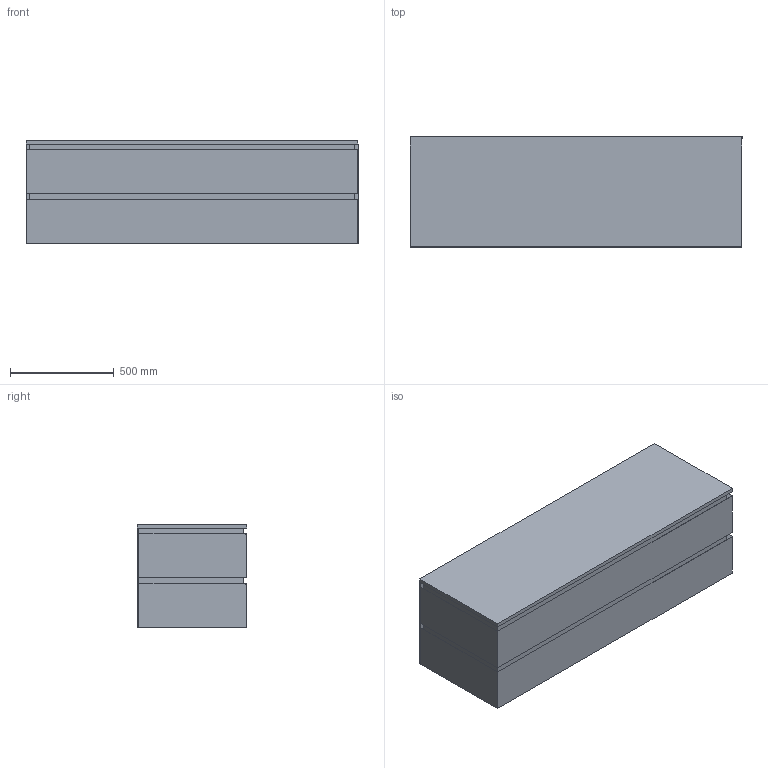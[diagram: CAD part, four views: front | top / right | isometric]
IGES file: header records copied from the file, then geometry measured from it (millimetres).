
Global section: file name: \\Archi-NAS\Comune\X GIOVANNI\MOBILI\ELEGNACE\ELEGANCE_05.igs; native system: Rhinoceros ( Feb 23 2021 ); preprocessor: Trout Lake IGES 012 Feb 23 2021; date: 230607.142120; units: millimetre
Bounding box: 1600 x 530 x 500 mm (x, y, z)
Surface area: 14896909 mm2 (no closed solid volume)
Topology: 0 solids, 0 shells, 138 faces, 584 edges, 584 vertices
Faces by surface type: bspline 138
